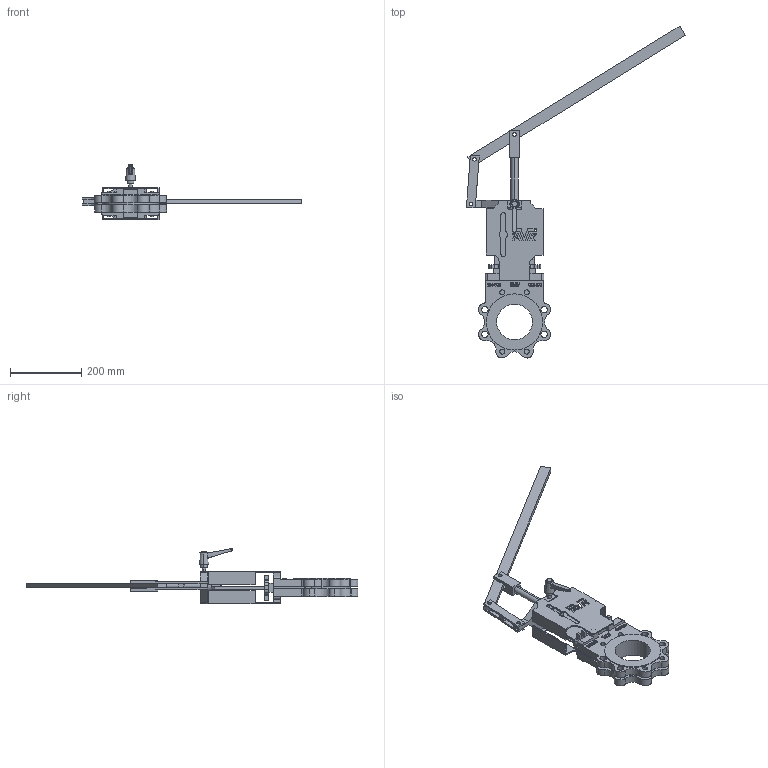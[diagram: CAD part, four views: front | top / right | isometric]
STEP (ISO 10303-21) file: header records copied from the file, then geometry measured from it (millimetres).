
FILE_DESCRIPTION (( 'STEP AP203' ), '1' );
FILE_NAME ('70210030034.STEP', '2017-03-28T10:57:13', ( '' ), ( '' ), 'SwSTEP 2.0', 'SolidWorks 2016', '' );
FILE_SCHEMA (( 'CONFIG_CONTROL_DESIGN' ));
Products named in the file (1): 70210030034
Bounding box: 615.71 x 932.32 x 155.5 mm (x, y, z)
Volume: 2500677.2 mm3; surface area: 477832.7 mm2
Topology: 1 solids, 1 shells, 1090 faces, 3058 edges, 2029 vertices
Faces by surface type: plane 548, cylinder 390, bspline 146, cone 6
Entity records: 44924 total; most frequent: CARTESIAN_POINT 16823, ORIENTED_EDGE 6116, DIRECTION 5440, EDGE_CURVE 3058, VERTEX_POINT 2029, VECTOR 1968, LINE 1968, AXIS2_PLACEMENT_3D 1736
